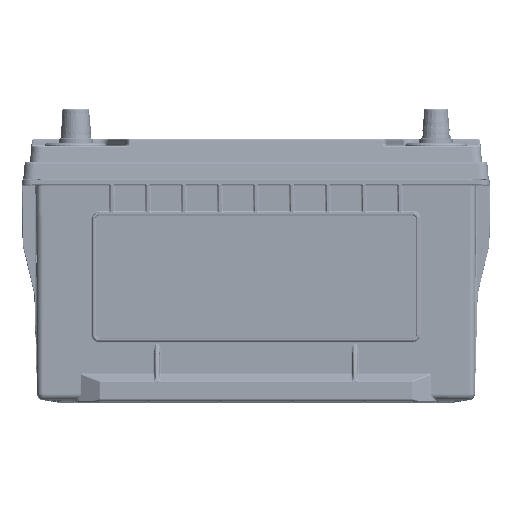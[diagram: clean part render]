
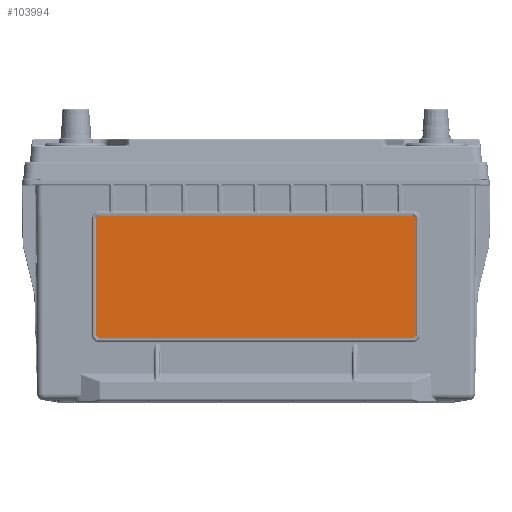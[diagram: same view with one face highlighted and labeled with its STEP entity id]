
A CAD part, top view. The second image highlights one B-rep face of the part: STEP entity #103994.
In plain terms, the highlighted planar face has unit normal (0, -0.018, 1).
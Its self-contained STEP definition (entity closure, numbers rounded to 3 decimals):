
#2738 = CARTESIAN_POINT ( 'NONE',  ( -4.046, -0.857, 3.391 ) ) ;
#3777 = CARTESIAN_POINT ( 'NONE',  ( 3.961, -0.772, 3.392 ) ) ;
#3903 = VERTEX_POINT ( 'NONE', #14325 ) ;
#6930 = VECTOR ( 'NONE', #30063, 39.37 ) ;
#14325 = CARTESIAN_POINT ( 'NONE',  ( 4.046, -3.777, 3.34 ) ) ;
#16188 = CARTESIAN_POINT ( 'NONE',  ( -3.961, -0.772, 3.392 ) ) ;
#20650 = CARTESIAN_POINT ( 'NONE',  ( -4.046, -3.827, 3.339 ) ) ;
#22428 = LINE ( 'NONE', #159090, #144896 ) ;
#22453 = ORIENTED_EDGE ( 'NONE', *, *, #135581, .T. ) ;
#22585 = CARTESIAN_POINT ( 'NONE',  ( 4.046, -0.857, 3.391 ) ) ;
#30063 = DIRECTION ( 'NONE',  ( 1., 0., 0. ) ) ;
#31315 = LINE ( 'NONE', #107760, #6930 ) ;
#32054 = CARTESIAN_POINT ( 'NONE',  ( -4.046, -3.777, 3.34 ) ) ;
#35700 = VERTEX_POINT ( 'NONE', #67903 ) ;
#36473 = VERTEX_POINT ( 'NONE', #234895 ) ;
#43487 = ORIENTED_EDGE ( 'NONE', *, *, #179578, .T. ) ;
#61836 =( BOUNDED_CURVE ( )  B_SPLINE_CURVE ( 3, ( #97124, #20650, #226485, #230179 ),
 .UNSPECIFIED., .F., .F. ) 
 B_SPLINE_CURVE_WITH_KNOTS ( ( 4, 4 ),
 ( 0., 1.571 ),
 .UNSPECIFIED. ) 
 CURVE ( )  GEOMETRIC_REPRESENTATION_ITEM ( )  RATIONAL_B_SPLINE_CURVE ( ( 1., 0.805, 0.805, 1. ) ) 
 REPRESENTATION_ITEM ( '' )  );
#63239 = ORIENTED_EDGE ( 'NONE', *, *, #89497, .T. ) ;
#63308 = LINE ( 'NONE', #236495, #138258 ) ;
#66345 = CARTESIAN_POINT ( 'NONE',  ( -4.046, -3.777, 3.34 ) ) ;
#67792 =( BOUNDED_CURVE ( )  B_SPLINE_CURVE ( 3, ( #89856, #166403, #109858, #220439 ),
 .UNSPECIFIED., .F., .F. ) 
 B_SPLINE_CURVE_WITH_KNOTS ( ( 4, 4 ),
 ( 1.571, 3.142 ),
 .UNSPECIFIED. ) 
 CURVE ( )  GEOMETRIC_REPRESENTATION_ITEM ( )  RATIONAL_B_SPLINE_CURVE ( ( 1., 0.805, 0.805, 1. ) ) 
 REPRESENTATION_ITEM ( '' )  );
#67903 = CARTESIAN_POINT ( 'NONE',  ( -3.961, -0.772, 3.392 ) ) ;
#68850 = DIRECTION ( 'NONE',  ( 0., -1., -0.017 ) ) ;
#69928 = ORIENTED_EDGE ( 'NONE', *, *, #220982, .T. ) ;
#71071 = CARTESIAN_POINT ( 'NONE',  ( 3.961, -3.862, 3.338 ) ) ;
#75017 = FACE_OUTER_BOUND ( 'NONE', #164047, .T. ) ;
#78488 = EDGE_CURVE ( 'NONE', #197175, #108157, #238306, .T. ) ;
#82001 = VERTEX_POINT ( 'NONE', #215970 ) ;
#83751 = ORIENTED_EDGE ( 'NONE', *, *, #147572, .T. ) ;
#85098 = AXIS2_PLACEMENT_3D ( 'NONE', #209253, #215423, #197819 ) ;
#85502 = EDGE_CURVE ( 'NONE', #185217, #233837, #31315, .T. ) ;
#89497 = EDGE_CURVE ( 'NONE', #35700, #197175, #209546, .T. ) ;
#89856 = CARTESIAN_POINT ( 'NONE',  ( 3.961, -3.862, 3.338 ) ) ;
#95111 = CARTESIAN_POINT ( 'NONE',  ( -4.011, -0.772, 3.392 ) ) ;
#97124 = CARTESIAN_POINT ( 'NONE',  ( -4.046, -3.777, 3.34 ) ) ;
#103994 = ADVANCED_FACE ( 'NONE', ( #75017 ), #132653, .T. ) ;
#107760 = CARTESIAN_POINT ( 'NONE',  ( -5.53, -3.862, 3.338 ) ) ;
#108157 = VERTEX_POINT ( 'NONE', #32054 ) ;
#109858 = CARTESIAN_POINT ( 'NONE',  ( 4.046, -3.827, 3.339 ) ) ;
#123510 = ORIENTED_EDGE ( 'NONE', *, *, #85502, .T. ) ;
#132653 = PLANE ( 'NONE',  #85098 ) ;
#135514 =( BOUNDED_CURVE ( )  B_SPLINE_CURVE ( 3, ( #22585, #175643, #212057, #3777 ),
 .UNSPECIFIED., .F., .F. ) 
 B_SPLINE_CURVE_WITH_KNOTS ( ( 4, 4 ),
 ( 5.176, 6.746 ),
 .UNSPECIFIED. ) 
 CURVE ( )  GEOMETRIC_REPRESENTATION_ITEM ( )  RATIONAL_B_SPLINE_CURVE ( ( 1., 0.805, 0.805, 1. ) ) 
 REPRESENTATION_ITEM ( '' )  );
#135581 = EDGE_CURVE ( 'NONE', #3903, #82001, #63308, .T. ) ;
#138258 = VECTOR ( 'NONE', #141021, 39.37 ) ;
#138992 = DIRECTION ( 'NONE',  ( -1., 0., 0. ) ) ;
#141021 = DIRECTION ( 'NONE',  ( 0., 1., 0.017 ) ) ;
#141733 = ORIENTED_EDGE ( 'NONE', *, *, #78488, .T. ) ;
#142951 = ORIENTED_EDGE ( 'NONE', *, *, #243480, .T. ) ;
#144896 = VECTOR ( 'NONE', #138992, 39.37 ) ;
#147572 = EDGE_CURVE ( 'NONE', #36473, #35700, #22428, .T. ) ;
#147910 = CARTESIAN_POINT ( 'NONE',  ( -4.046, -0.807, 3.392 ) ) ;
#159090 = CARTESIAN_POINT ( 'NONE',  ( -5.53, -0.772, 3.392 ) ) ;
#162515 = CARTESIAN_POINT ( 'NONE',  ( -3.961, -3.862, 3.338 ) ) ;
#164047 = EDGE_LOOP ( 'NONE', ( #22453, #43487, #83751, #63239, #141733, #142951, #123510, #69928 ) ) ;
#166403 = CARTESIAN_POINT ( 'NONE',  ( 4.011, -3.862, 3.338 ) ) ;
#175643 = CARTESIAN_POINT ( 'NONE',  ( 4.046, -0.807, 3.392 ) ) ;
#179578 = EDGE_CURVE ( 'NONE', #82001, #36473, #135514, .T. ) ;
#185217 = VERTEX_POINT ( 'NONE', #162515 ) ;
#197175 = VERTEX_POINT ( 'NONE', #2738 ) ;
#197819 = DIRECTION ( 'NONE',  ( 0., -1., -0.017 ) ) ;
#209253 = CARTESIAN_POINT ( 'NONE',  ( -5.53, -5.43, 3.311 ) ) ;
#209546 =( BOUNDED_CURVE ( )  B_SPLINE_CURVE ( 3, ( #16188, #95111, #147910, #224505 ),
 .UNSPECIFIED., .F., .F. ) 
 B_SPLINE_CURVE_WITH_KNOTS ( ( 4, 4 ),
 ( 2.678, 4.249 ),
 .UNSPECIFIED. ) 
 CURVE ( )  GEOMETRIC_REPRESENTATION_ITEM ( )  RATIONAL_B_SPLINE_CURVE ( ( 1., 0.805, 0.805, 1. ) ) 
 REPRESENTATION_ITEM ( '' )  );
#212057 = CARTESIAN_POINT ( 'NONE',  ( 4.011, -0.772, 3.392 ) ) ;
#215423 = DIRECTION ( 'NONE',  ( 0., -0.017, 1. ) ) ;
#215970 = CARTESIAN_POINT ( 'NONE',  ( 4.046, -0.857, 3.391 ) ) ;
#220439 = CARTESIAN_POINT ( 'NONE',  ( 4.046, -3.777, 3.34 ) ) ;
#220982 = EDGE_CURVE ( 'NONE', #233837, #3903, #67792, .T. ) ;
#221913 = VECTOR ( 'NONE', #68850, 39.37 ) ;
#224505 = CARTESIAN_POINT ( 'NONE',  ( -4.046, -0.857, 3.391 ) ) ;
#226485 = CARTESIAN_POINT ( 'NONE',  ( -4.011, -3.862, 3.338 ) ) ;
#230179 = CARTESIAN_POINT ( 'NONE',  ( -3.961, -3.862, 3.338 ) ) ;
#233837 = VERTEX_POINT ( 'NONE', #71071 ) ;
#234895 = CARTESIAN_POINT ( 'NONE',  ( 3.961, -0.772, 3.392 ) ) ;
#236495 = CARTESIAN_POINT ( 'NONE',  ( 4.046, -0.857, 3.391 ) ) ;
#238306 = LINE ( 'NONE', #66345, #221913 ) ;
#243480 = EDGE_CURVE ( 'NONE', #108157, #185217, #61836, .T. ) ;
